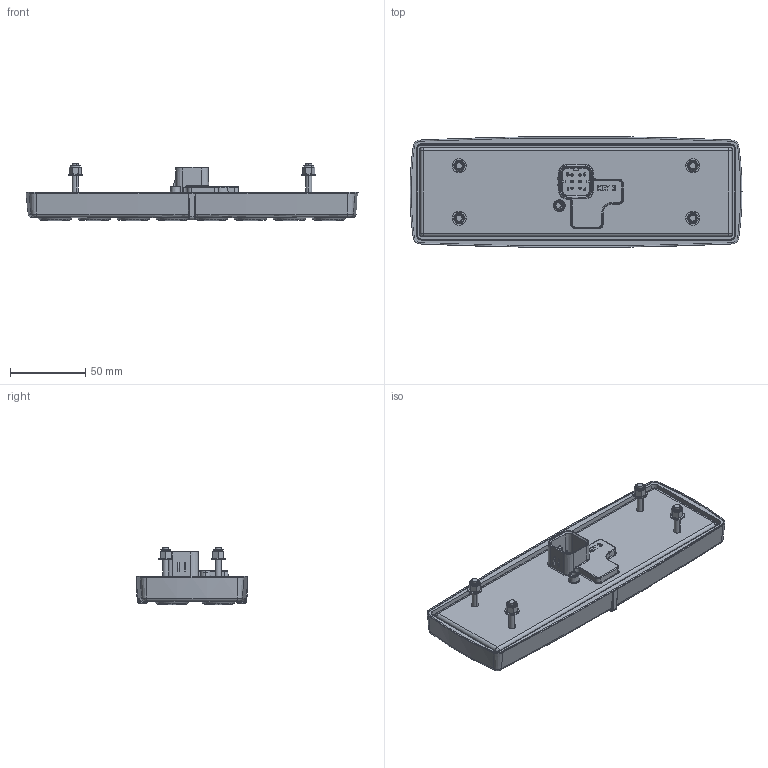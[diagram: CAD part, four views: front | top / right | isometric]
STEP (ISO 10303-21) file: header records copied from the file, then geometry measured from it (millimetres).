
FILE_DESCRIPTION (( 'STEP AP203' ), '1' );
FILE_NAME ('CL-613-500_Assy_with_overlay_and_PCB.STEP', '2014-05-27T20:39:54', ( '' ), ( '' ), 'SwSTEP 2.0', 'SolidWorks 2013', '' );
FILE_SCHEMA (( 'CONFIG_CONTROL_DESIGN' ));
Length unit declared in the file: inch
Products named in the file (1): CL-613-500_Assy_with_overlay_and_PCB
Bounding box: 220.99 x 73.88 x 38.2 mm (x, y, z)
Volume: 142380.4 mm3; surface area: 130071.4 mm2
Topology: 25 solids, 25 shells, 4467 faces, 10980 edges, 6911 vertices
Faces by surface type: cylinder 1706, plane 1703, bspline 387, cone 342, torus 264, sphere 65
Entity records: 141996 total; most frequent: CARTESIAN_POINT 36518, DIRECTION 22455, ORIENTED_EDGE 21900, EDGE_CURVE 10950, AXIS2_PLACEMENT_3D 8393, VERTEX_POINT 6911, LINE 5669, VECTOR 5669
